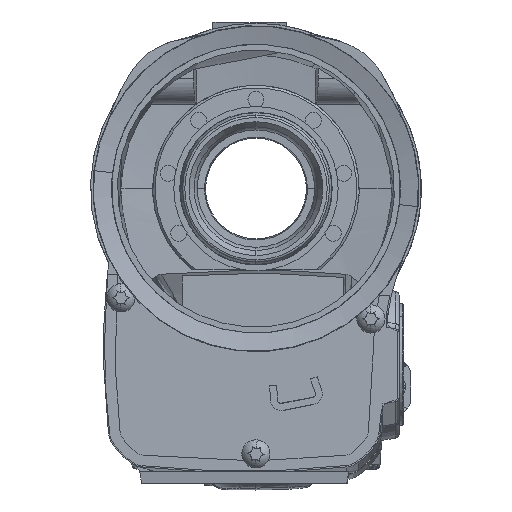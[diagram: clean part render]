
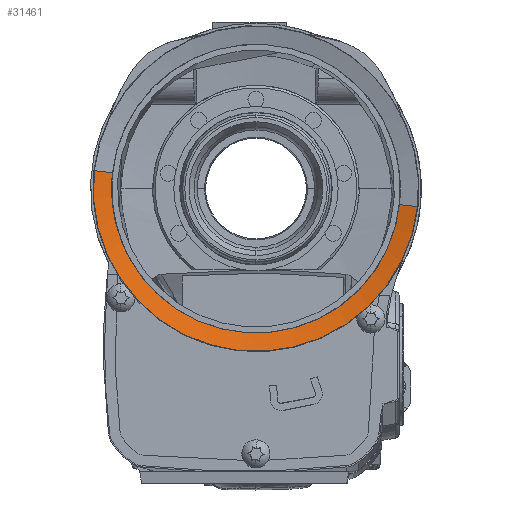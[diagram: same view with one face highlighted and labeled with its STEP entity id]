
A CAD part, left-side view. The second image highlights one B-rep face of the part: STEP entity #31461.
In plain terms, the highlighted conical face has half-angle 74.916 degrees and reference radius 69.292 mm.
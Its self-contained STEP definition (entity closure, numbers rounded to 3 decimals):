
#841 = ORIENTED_EDGE ( 'NONE', *, *, #72496, .F. ) ;
#842 = ORIENTED_EDGE ( 'NONE', *, *, #66046, .T. ) ;
#843 = ORIENTED_EDGE ( 'NONE', *, *, #72535, .T. ) ;
#844 = ORIENTED_EDGE ( 'NONE', *, *, #72492, .T. ) ;
#845 = ORIENTED_EDGE ( 'NONE', *, *, #72508, .F. ) ;
#7918 = VECTOR ( 'NONE', #25835, 1000. ) ;
#7923 = LINE ( 'NONE', #25854, #7930 ) ;
#7928 = LINE ( 'NONE', #25812, #7918 ) ;
#7930 = VECTOR ( 'NONE', #25856, 1000. ) ;
#7953 = CIRCLE ( 'NONE', #56532, 69.292 ) ;
#16777 = CARTESIAN_POINT ( 'NONE',  ( 379.1, 1243., 0. ) ) ;
#16778 = DIRECTION ( 'NONE',  ( 1., 0., 0. ) ) ;
#16779 = DIRECTION ( 'NONE',  ( 0., -0.994, -0.11 ) ) ;
#18536 = CARTESIAN_POINT ( 'NONE',  ( 377., 1311.87, 7.638 ) ) ;
#18538 = CARTESIAN_POINT ( 'NONE',  ( 377., 1174.13, -7.638 ) ) ;
#18539 = CARTESIAN_POINT ( 'NONE',  ( 379.1, 1181.875, -6.779 ) ) ;
#18709 = CARTESIAN_POINT ( 'NONE',  ( 379.1, 1267.86, -56.251 ) ) ;
#18742 = CARTESIAN_POINT ( 'NONE',  ( 379.1, 1304.125, 6.779 ) ) ;
#25812 = CARTESIAN_POINT ( 'NONE',  ( 377., 1311.87, 7.638 ) ) ;
#25835 = DIRECTION ( 'NONE',  ( -0.26, 0.96, 0.106 ) ) ;
#25854 = CARTESIAN_POINT ( 'NONE',  ( 377., 1174.13, -7.638 ) ) ;
#25856 = DIRECTION ( 'NONE',  ( -0.26, -0.96, -0.106 ) ) ;
#25911 = CARTESIAN_POINT ( 'NONE',  ( 377., 1243., 0. ) ) ;
#25917 = DIRECTION ( 'NONE',  ( 1., 0., 0. ) ) ;
#25919 = DIRECTION ( 'NONE',  ( 0., -0.994, -0.11 ) ) ;
#26082 = CARTESIAN_POINT ( 'NONE',  ( 379.1, 1243., 0. ) ) ;
#26086 = DIRECTION ( 'NONE',  ( 1., 0., 0. ) ) ;
#26087 = DIRECTION ( 'NONE',  ( 0., -0.994, -0.11 ) ) ;
#31461 = ADVANCED_FACE ( 'NONE', ( #60420 ), #60421, .F. ) ;
#39710 = AXIS2_PLACEMENT_3D ( 'NONE', #44344, #44336, #44335 ) ;
#44335 = DIRECTION ( 'NONE',  ( 0., 0.994, 0.11 ) ) ;
#44336 = DIRECTION ( 'NONE',  ( -1., 0., 0. ) ) ;
#44344 = CARTESIAN_POINT ( 'NONE',  ( 377., 1243., 0. ) ) ;
#50310 = VERTEX_POINT ( 'NONE', #18536 ) ;
#50312 = VERTEX_POINT ( 'NONE', #18538 ) ;
#50313 = VERTEX_POINT ( 'NONE', #18539 ) ;
#50483 = VERTEX_POINT ( 'NONE', #18709 ) ;
#50516 = VERTEX_POINT ( 'NONE', #18742 ) ;
#54465 = CIRCLE ( 'NONE', #55732, 61.5 ) ;
#55732 = AXIS2_PLACEMENT_3D ( 'NONE', #16777, #16778, #16779 ) ;
#56532 = AXIS2_PLACEMENT_3D ( 'NONE', #25911, #25917, #25919 ) ;
#56562 = AXIS2_PLACEMENT_3D ( 'NONE', #26082, #26086, #26087 ) ;
#60420 = FACE_OUTER_BOUND ( 'NONE', #69252, .T. ) ;
#60421 = CONICAL_SURFACE ( 'NONE', #39710, 69.292, 1.308 ) ;
#66046 = EDGE_CURVE ( 'NONE', #50313, #50483, #54465, .T. ) ;
#66849 = CIRCLE ( 'NONE', #56562, 61.5 ) ;
#69252 = EDGE_LOOP ( 'NONE', ( #841, #842, #843, #844, #845 ) ) ;
#72492 = EDGE_CURVE ( 'NONE', #50516, #50310, #7928, .T. ) ;
#72496 = EDGE_CURVE ( 'NONE', #50313, #50312, #7923, .T. ) ;
#72508 = EDGE_CURVE ( 'NONE', #50312, #50310, #7953, .T. ) ;
#72535 = EDGE_CURVE ( 'NONE', #50483, #50516, #66849, .T. ) ;
